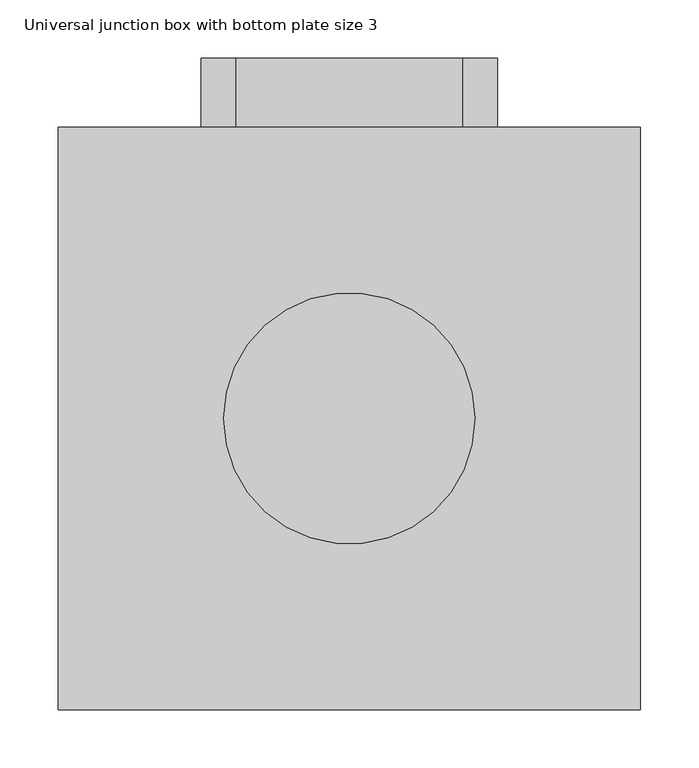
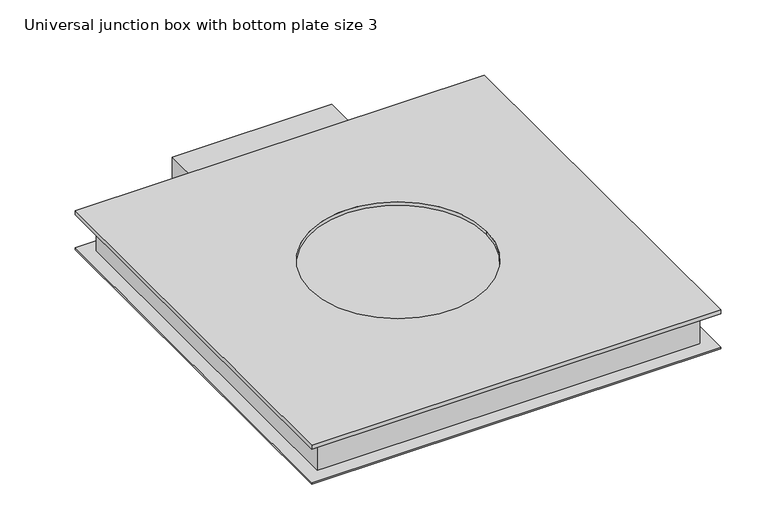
"""IFC4 building model written with IfcOpenShell, lengths in millimetres: cable carrier fitting geometry, Electrical-Installations_Hager_Universal-Junction-Box-With-Bottom-Plate-Size-3 : Universal junction box with bottom plate size 3."""

from ifc_helpers import new_model, si_unit, frame, origin, place, context, project, spatial, polyline, circle_curve, outline, extrude, faceted_brep, source, transform, mapped, element, save
from ifc_brep_helpers import plane_surface, revolved_surface, advanced_brep


def universal_junction_box_with_bottom_plate_size_3_b58b3dae(model_context):
    return source(origin(), model_context, "Body", "SolidModel", [
        extrude(outline(polyline([(-14.0, -127.0), (-14.0, -95.0), (14.0, -95.0), (14.0, 95.0), (-14.0, 95.0), (-14.0, 127.0), (-12.0, 127.0), (-12.0, 97.0), (16.0, 97.0), (16.0, -97.0), (-12.0, -97.0), (-12.0, -127.0), (-14.0, -127.0)])), frame((0.0, 249.0, 0.0), z_axis=(0.0, 1.0, 0.0), x_axis=(0.0, 0.0, 1.0)), (0.0, 0.0, 1.0), 59.0),
        advanced_brep(
        [(-249.0, -249.0, 36.0), (249.0, -249.0, 36.0), (249.0, 249.0, 36.0), (-249.0, 249.0, 36.0), (-107.5, 0.0, 36.0), (107.5, 0.0, 36.0), (-249.0, -249.0, 31.0), (-249.0, 249.0, 31.0), (249.0, 249.0, 31.0), (249.0, -249.0, 31.0), (227.0, 227.0, 31.0), (-227.0, 227.0, 31.0), (-227.0, -227.0, 31.0), (227.0, -227.0, 31.0), (-107.5, 0.0, 31.7820613), (107.5, 0.0, 31.7820613), (227.0, 227.0, 31.7820613), (227.0, -227.0, 31.7820613), (-227.0, -227.0, 31.7820613), (-227.0, 227.0, 31.7820613)],
        [
            (0, 1),
            (1, 2),
            (2, 3),
            (3, 0),
            (4, 5, circle_curve(frame((0.0, 0.0, 36.0), z_axis=(0.0, 0.0, -1.0), x_axis=(1.0, 0.0, 0.0)), 107.5)),
            (5, 4, circle_curve(frame((0.0, 0.0, 36.0), z_axis=(0.0, 0.0, -1.0), x_axis=(1.0, 0.0, 0.0)), 107.5)),
            (6, 7),
            (7, 8),
            (8, 9),
            (9, 6),
            (10, 11),
            (11, 12),
            (12, 13),
            (13, 10),
            (0, 6),
            (9, 1),
            (8, 2),
            (7, 3),
            (4, 14),
            (14, 15, circle_curve(frame((0.0, 0.0, 31.7820613), z_axis=(0.0, 0.0, -1.0), x_axis=(1.0, 0.0, 0.0)), 107.5)),
            (15, 5),
            (15, 14, circle_curve(frame((0.0, 0.0, 31.7820613), z_axis=(0.0, 0.0, -1.0), x_axis=(1.0, 0.0, 0.0)), 107.5)),
            (16, 17),
            (17, 18),
            (18, 19),
            (19, 16),
            (19, 11),
            (10, 16),
            (18, 12),
            (17, 13),
        ],
        [
            plane_surface(frame((-249.0, -249.0, 36.0), z_axis=(0.0, 0.0, 1.0), x_axis=(1.0, 0.0, 0.0))),
            plane_surface(frame((-249.0, -249.0, 31.0), z_axis=(0.0, 0.0, -1.0), x_axis=(-1.0, 0.0, 0.0))),
            plane_surface(frame((-249.0, -249.0, 36.0), z_axis=(0.0, -1.0, 0.0), x_axis=(0.0, 0.0, -1.0))),
            plane_surface(frame((249.0, -249.0, 36.0), z_axis=(1.0, 0.0, 0.0), x_axis=(0.0, 0.0, -1.0))),
            plane_surface(frame((249.0, 249.0, 36.0), z_axis=(0.0, 1.0, 0.0), x_axis=(0.0, 0.0, -1.0))),
            plane_surface(frame((-249.0, 249.0, 36.0), z_axis=(-1.0, 0.0, 0.0), x_axis=(0.0, 0.0, -1.0))),
            revolved_surface(polyline([(107.5, 0.0, 31.7820613), (107.5, 0.0, 36.0)]), (0.0, 0.0, 0.0), (0.0, 0.0, -1.0)),
            plane_surface(frame((-227.0, 227.0, 31.7820613), z_axis=(0.0, 0.0, -1.0), x_axis=(-1.0, 0.0, 0.0))),
            plane_surface(frame((227.0, 227.0, 31.7820613), z_axis=(0.0, -1.0, 0.0), x_axis=(0.0, 0.0, -1.0))),
            plane_surface(frame((-227.0, 227.0, 31.7820613), z_axis=(1.0, 0.0, 0.0), x_axis=(0.0, 0.0, -1.0))),
            plane_surface(frame((-227.0, -227.0, 31.7820613), z_axis=(0.0, 1.0, 0.0), x_axis=(0.0, 0.0, -1.0))),
            plane_surface(frame((227.0, -227.0, 31.7820613), z_axis=(-1.0, 0.0, 0.0), x_axis=(0.0, 0.0, -1.0))),
        ],
        [
            (0, [[1, 2, 3, 4], [5, 6]]),
            (1, [[7, 8, 9, 10], [11, 12, 13, 14]]),
            (2, [[-1, 15, -10, 16]]),
            (3, [[-2, -16, -9, 17]]),
            (4, [[-3, -17, -8, 18]]),
            (5, [[-4, -18, -7, -15]]),
            (6, [[-5, 19, 20, 21]]),
            (6, [[-6, -21, 22, -19]]),
            (7, [[23, 24, 25, 26], [-20, -22]]),
            (8, [[-26, 27, -11, 28]]),
            (9, [[-25, 29, -12, -27]]),
            (10, [[-24, 30, -13, -29]]),
            (11, [[-23, -28, -14, -30]]),
        ],
    ),
        extrude(outline(polyline([(249.0, 249.0), (249.0, -249.0), (-249.0, -249.0), (-249.0, 249.0), (249.0, 249.0)])), frame((0.0, 0.0, -14.0), z_axis=(0.0, 0.0, 1.0), x_axis=(1.0, 0.0, 0.0)), (0.0, 0.0, 1.0), 2.0),
        faceted_brep([(-233.0, 233.0, 31.0), (-233.0, -233.0, 31.0), (233.0, -233.0, 31.0), (233.0, 233.0, 31.0), (-227.0, 227.0, 31.0), (227.0, 227.0, 31.0), (227.0, -227.0, 31.0), (-227.0, -227.0, 31.0), (-233.0, 233.0, -14.0), (233.0, 233.0, -14.0), (233.0, -233.0, -14.0), (-233.0, -233.0, -14.0), (227.0, 227.0, -6.1362798), (-227.0, 227.0, -6.1362798), (-227.0, -227.0, -6.1362798), (227.0, -227.0, -6.1362798)], [[[0, 1, 2, 3], [4, 5, 6, 7]], [[8, 9, 10, 11]], [[1, 0, 8, 11]], [[2, 1, 11, 10]], [[3, 2, 10, 9]], [[0, 3, 9, 8]], [[12, 13, 14, 15]], [[13, 12, 5, 4]], [[14, 13, 4, 7]], [[15, 14, 7, 6]], [[12, 15, 6, 5]]]),
    ])


if __name__ == "__main__":
    model = new_model("IFC4")
    model_context = context("Model", 3, world=origin())
    ifc_project = project(units=[si_unit("LENGTHUNIT", "METRE", prefix="MILLI")], contexts=[model_context])
    site = spatial("IfcSite", under=ifc_project)
    building = spatial("IfcBuilding", under=site)
    placement = place(None, origin())
    universal_junction_box_with_bottom_plate_size_3_shape = universal_junction_box_with_bottom_plate_size_3_b58b3dae(model_context)
    element("IfcCableCarrierFitting", 1, ObjectType="Electrical-Installations_Hager_Universal-Junction-Box-With-Bottom-Plate-Size-3 : Universal junction box with bottom plate size 3", at=placement, inside=building, context=model_context, shape_type="MappedRepresentation", body=[
        mapped(universal_junction_box_with_bottom_plate_size_3_shape, transform((0.0, 0.0, 0.0), x_axis=(1.0, 0.0, 0.0), y_axis=(0.0, 1.0, 0.0), z_axis=(0.0, 0.0, 1.0))),
    ])
    save(model, "model.ifc")
